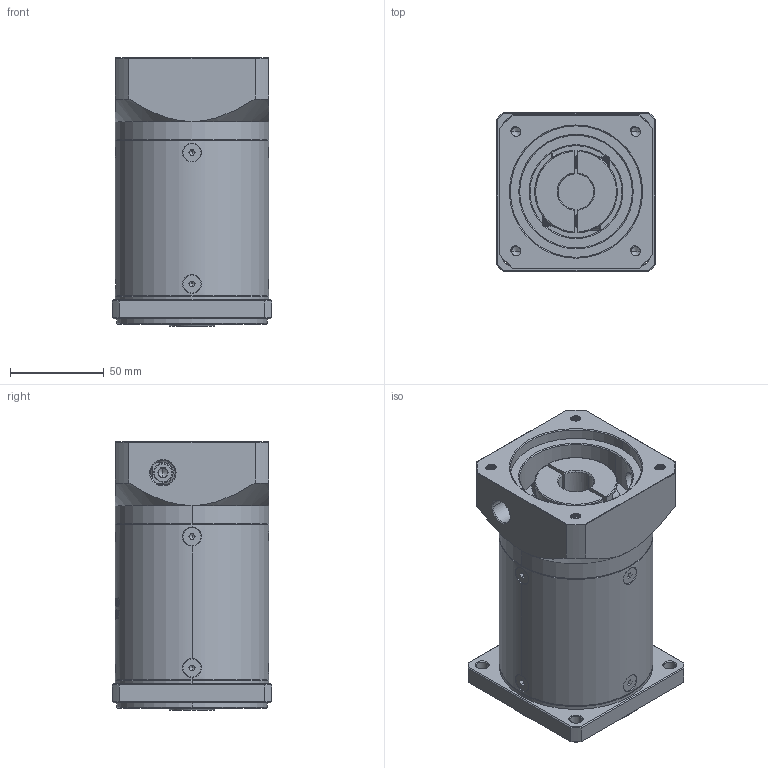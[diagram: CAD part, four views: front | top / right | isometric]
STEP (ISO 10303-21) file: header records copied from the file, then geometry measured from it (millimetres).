
FILE_DESCRIPTION (( 'STEP AP214' ), '1' );
FILE_NAME ('ZF080-K15-L3-P2-19-70-90-M6.step', '2023-08-19T05:37:26', ( '' ), ( '' ), 'SwSTEP 2.0', 'SolidWorks 2016', '' );
FILE_SCHEMA (( 'AUTOMOTIVE_DESIGN' ));
Length unit declared in the file: millimetre
Products named in the file (1): ZF080-K15-L3-P2-19-70-90-M6
Bounding box: 85 x 85 x 143 mm (x, y, z)
Volume: 720149.8 mm3; surface area: 95243 mm2
Topology: 13 solids, 13 shells, 2201 faces, 5781 edges, 3677 vertices
Faces by surface type: plane 1061, bspline 390, cylinder 384, cone 331, torus 35
Entity records: 117141 total; most frequent: CARTESIAN_POINT 43670, ORIENTED_EDGE 11506, DIRECTION 8504, EDGE_CURVE 5753, VERTEX_POINT 3677, LINE 3062, VECTOR 3062, AXIS2_PLACEMENT_3D 2721
